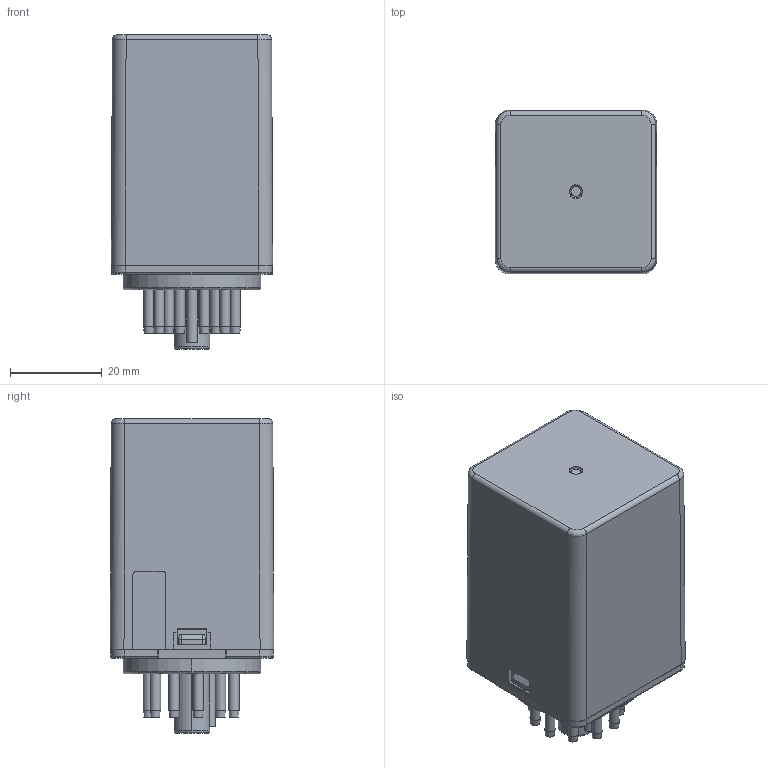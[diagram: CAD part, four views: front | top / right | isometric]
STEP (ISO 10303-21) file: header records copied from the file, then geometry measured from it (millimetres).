
FILE_DESCRIPTION(/* description */ (''),/* implementation_level */ '2;1');
FILE_NAME(/* name */ 'HF10FF-3Z.stp',/* time_stamp */ '2019-12-23T15:39:35+08:00',/* author */ (''),/* organization */ (''),/* preprocessor_version */ 'ST-DEVELOPER v15',/* originating_system */ 'SIEMENS PLM Software NX 8.5',/* authorisation */ '');
FILE_SCHEMA (('CONFIG_CONTROL_DESIGN'));
Length unit declared in the file: millimetre
Products named in the file (14): 77740980000_a; 66201109000_a; 66650401000_b; 77550617000_c3987; 80710157000_b3988; 86340677000_d; 66201455000_a; 66640657000_b; 61210923000_a; 61210924000_a; 61210632000_b; 61210628000_a4000; 56701879000_a; 45201797000_a_stp
Assembly tree (28 placements, depth 6):
  45201797000_a_stp
    86340677000_d
    56701879000_a
      61210628000_a4000
        80710157000_b3988
        77550617000_c3987  x11
      61210632000_b
        61210924000_a
          61210923000_a
            66201109000_a  x4
          66201109000_a  x2
        66640657000_b
          77740980000_a
      66201455000_a
        66650401000_b
Bounding box: 35.2 x 35.7 x 68.6 mm (x, y, z)
Volume: 25379.9 mm3; surface area: 40373.8 mm2
Topology: 14 solids, 15 shells, 1582 faces, 3825 edges, 2335 vertices
Faces by surface type: plane 945, cylinder 406, bspline 94, sphere 47, cone 36, torus 30, extrusion 24
Full cylindrical faces by diameter (mm): 1.8 x22, 2.3 x22, 4.6 x11, 5 x2
Entity records: 45764 total; most frequent: CARTESIAN_POINT 9506, ORIENTED_EDGE 7160, DIRECTION 6951, EDGE_CURVE 3580, VECTOR 2659, LINE 2635, VERTEX_POINT 2233, AXIS2_PLACEMENT_3D 2146
